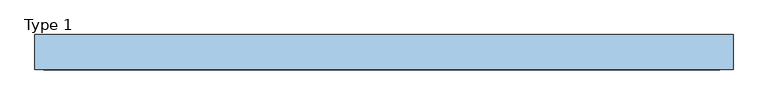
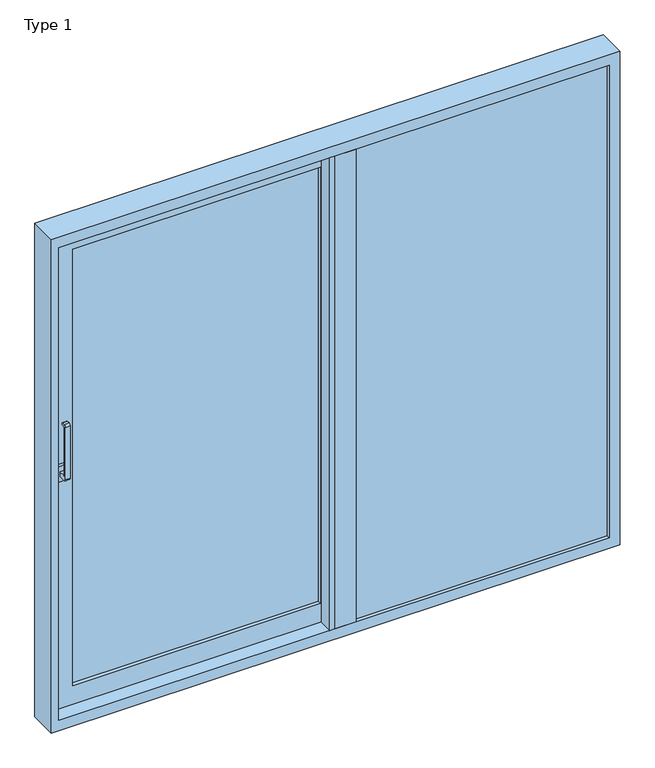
"""IFC4 building model written with IfcOpenShell, lengths in millimetres: window geometry, ETEM_E50_Single_Lift_Sliding_HT : Type 1."""

from ifc_helpers import new_model, si_unit, point, frame, frame_2d, origin, place, context, project, spatial, polyline, circle_curve, trimmed, segment, composite_curve, outline, extrude, faceted_brep, source, transform, mapped, element, save


def type_1_9b372a41(model_context):
    return source(origin(), model_context, "Body", "SolidModel", [
        extrude(outline(composite_curve([segment(polyline([(36.95, 1090.0), (5.3763152, 1090.0)]), True, "CONTINUOUS"), segment(trimmed(circle_curve(frame_2d((5.3763152, 1098.4263152)), 8.4263152), [point((5.3763152, 1090.0))], [point((-3.05, 1098.4263152))], False, "CARTESIAN"), True, "CONTINUOUS"), segment(polyline([(-3.05, 1098.4263152), (-3.05, 1331.5736848)]), True, "CONTINUOUS"), segment(trimmed(circle_curve(frame_2d((5.3763152, 1331.5736848)), 8.4263152), [point((-3.05, 1331.5736848))], [point((5.3763152, 1340.0))], False, "CARTESIAN"), True, "CONTINUOUS"), segment(polyline([(5.3763152, 1340.0), (16.95, 1340.0)]), True, "CONTINUOUS"), segment(trimmed(circle_curve(frame_2d((16.95, 1335.0)), 5.0), [point((16.95, 1340.0))], [point((16.95, 1330.0))], False, "CARTESIAN"), True, "CONTINUOUS"), segment(polyline([(16.95, 1330.0), (10.4855339, 1330.0)]), True, "CONTINUOUS"), segment(trimmed(circle_curve(frame_2d((10.4855339, 1326.4644661)), 3.5355339), [point((10.4855339, 1330.0))], [point((6.95, 1326.4644661))], True, "CARTESIAN"), True, "CONTINUOUS"), segment(polyline([(6.95, 1326.4644661), (6.95, 1113.5355339)]), True, "CONTINUOUS"), segment(trimmed(circle_curve(frame_2d((10.4855339, 1113.5355339)), 3.5355339), [point((6.95, 1113.5355339))], [point((10.4855339, 1110.0))], True, "CARTESIAN"), True, "CONTINUOUS"), segment(polyline([(10.4855339, 1110.0), (36.95, 1110.0), (36.95, 1090.0)]), True, "CONTINUOUS")], self_intersect=False)), frame((-1133.6259607, 0.0, 0.0), z_axis=(1.0, 0.0, 0.0), x_axis=(0.0, 1.0, 0.0)), (0.0, 0.0, 1.0), 20.0),
        extrude(outline(polyline([(-1108.6259607, 36.95), (-1138.6259607, 36.95), (-1138.6259607, 49.95), (-1108.6259607, 49.95), (-1108.6259607, 36.95)])), frame((0.0, 0.0, 1065.0), z_axis=(0.0, 0.0, 1.0), x_axis=(1.0, 0.0, 0.0)), (0.0, 0.0, 1.0), 70.0),
        faceted_brep([(66.0, 54.1, 2164.0), (66.0, 49.4, 2164.0), (66.0, 49.4, 36.0), (66.0, 54.1, 36.0), (-1164.1259607, 49.4, 2164.0), (-1164.1259607, 49.4, 36.0), (-25.5, 49.4, 127.5), (-1072.6259607, 49.4, 127.5), (-1072.6259607, 49.4, 2072.5), (-25.5, 49.4, 2072.5), (-1164.1259607, 54.1, 36.0), (-1164.1259607, 54.1, 2164.0), (34.9, 54.1, 2132.9), (-1133.0259607, 54.1, 2132.9), (-1133.0259607, 54.1, 67.1), (34.9, 54.1, 67.1), (34.9, 94.7, 2132.9), (34.9, 94.7, 67.1), (-1133.0259607, 94.7, 67.1), (66.0, 94.7, 2164.0), (-1164.1259607, 94.7, 2164.0), (-1164.1259607, 94.7, 36.0), (66.0, 94.7, 36.0), (-1133.0259607, 94.7, 2132.9), (66.0, 99.4, 2164.0), (66.0, 99.4, 36.0), (-1164.1259607, 99.4, 36.0), (-1164.1259607, 99.4, 2164.0), (-25.5, 99.4, 2072.5), (-1072.6259607, 99.4, 2072.5), (-1072.6259607, 99.4, 127.5), (-25.5, 99.4, 127.5)], [[[0, 1, 2, 3]], [[1, 4, 5, 2], [6, 7, 8, 9]], [[3, 2, 5, 10]], [[3, 10, 11, 0], [12, 13, 14, 15]], [[16, 12, 15, 17]], [[17, 15, 14, 18]], [[19, 20, 21, 22], [17, 18, 23, 16]], [[24, 19, 22, 25]], [[25, 22, 21, 26]], [[25, 26, 27, 24], [28, 29, 30, 31]], [[9, 28, 31, 6]], [[6, 31, 30, 7]], [[10, 5, 4, 11]], [[18, 14, 13, 23]], [[26, 21, 20, 27]], [[7, 30, 29, 8]], [[11, 4, 1, 0]], [[23, 13, 12, 16]], [[27, 20, 19, 24]], [[8, 29, 28, 9]]]),
        extrude(outline(polyline([(86.5, 38.4), (66.0, 38.4), (66.0, 99.4), (86.5, 99.4), (86.5, 38.4)])), frame((0.0, 0.0, 36.0), z_axis=(0.0, 0.0, 1.0), x_axis=(1.0, 0.0, 0.0)), (0.0, 0.0, 1.0), 2128.0),
        extrude(outline(polyline([(-25.5, 45.4), (-5.0, 45.4), (-5.0, -15.6), (-25.5, -15.6), (-25.5, 45.4)])), frame((0.0, 0.0, 46.0), z_axis=(0.0, 0.0, 1.0), x_axis=(1.0, 0.0, 0.0)), (0.0, 0.0, 1.0), 2108.0),
        extrude(outline(polyline([(-1072.6259607, 91.4), (-25.5, 91.4), (-25.5, 86.3998789), (-1072.6259607, 86.3998789), (-1072.6259607, 91.4)])), frame((0.0, 0.0, 127.5), z_axis=(0.0, 0.0, 1.0), x_axis=(1.0, 0.0, 0.0)), (0.0, 0.0, 1.0), 1945.0),
        extrude(outline(polyline([(-5.0, -15.6), (-5.0, -10.9), (24.2, -10.9), (24.2, 29.7), (-5.0, 29.7), (-5.0, 34.4), (86.5, 34.4), (86.5, -15.6), (-5.0, -15.6)])), frame((0.0, 0.0, 46.0), z_axis=(0.0, 0.0, 1.0), x_axis=(1.0, 0.0, 0.0)), (0.0, 0.0, 1.0), 2108.0),
        extrude(outline(polyline([(-1072.6259607, 70.4001211), (-25.5, 70.4001211), (-25.5, 65.4), (-1072.6259607, 65.4), (-1072.6259607, 70.4001211)])), frame((0.0, 0.0, 127.5), z_axis=(0.0, 0.0, 1.0), x_axis=(1.0, 0.0, 0.0)), (0.0, 0.0, 1.0), 1945.0),
        extrude(outline(polyline([(86.5, 5.4), (1154.0, 5.4), (1154.0, 0.4), (86.5, 0.4), (86.5, 5.4)])), frame((0.0, 0.0, 46.0), z_axis=(0.0, 0.0, 1.0), x_axis=(1.0, 0.0, 0.0)), (0.0, 0.0, 1.0), 2108.0),
        faceted_brep([(-15.6, 45.4, 35.8), (-15.6, 45.4, 46.0), (-15.6, 34.4, 46.0), (-15.6, 34.4, 35.8), (-15.6, 45.4, 2164.2), (-15.6, 34.4, 2164.2), (-15.6, 34.4, 2154.0), (-15.6, 45.4, 2154.0), (1200.0, -15.6, 2200.0), (1200.0, -15.6, 0.0), (1200.0, 105.0, 0.0), (1200.0, 105.0, 2200.0), (-1200.0, -15.6, 2200.0), (-1200.0, -15.6, 0.0), (1154.0, -15.6, 46.0), (-1169.0569844, -15.6, 46.0), (-1169.0569844, -15.6, 2154.0), (1154.0, -15.6, 2154.0), (-1200.0, 105.0, 0.0), (-1155.0, 105.0, 0.0), (-1155.0, 103.6, 0.0), (1155.0, 103.6, 0.0), (1155.0, 105.0, 0.0), (-1155.0, 103.6, 16.3), (1155.0, 103.6, 16.3), (1181.7, 92.1, 18.3), (1181.7, 78.9, 18.3), (1181.7, 78.9, 2181.7), (1181.7, 101.4, 2181.7), (1181.7, 101.4, 16.3), (1181.7, 92.1, 16.3), (-1181.7, 92.1, 18.3), (-1181.7, 78.9, 18.3), (-1181.7, 78.9, 2181.7), (1163.0, 78.9, 37.0), (1163.0, 78.9, 2163.0), (-1163.0, 78.9, 2163.0), (-1163.0, 78.9, 37.0), (1163.0, 90.4, 2163.0), (1163.0, 90.4, 37.0), (-1163.0, 90.4, 37.0), (-1163.0, 90.4, 2163.0), (1155.0, 90.4, 45.0), (1155.0, 90.4, 2155.0), (-1155.0, 90.4, 2155.0), (-1155.0, 90.4, 45.0), (1155.0, 58.4, 2155.0), (1155.0, 58.4, 45.0), (-1155.0, 58.4, 45.0), (1181.7, 69.9, 18.3), (1181.7, 69.9, 2181.7), (-1181.7, 69.9, 2181.7), (-1181.7, 69.9, 18.3), (1163.0, 69.9, 37.0), (-1163.0, 69.9, 37.0), (-1163.0, 69.9, 2163.0), (1163.0, 69.9, 2163.0), (1181.7, 34.4, 2181.7), (1181.7, 34.4, 18.3), (-1181.7, 34.4, 18.3), (-1181.7, 34.4, 2181.7), (1154.0, 34.4, 46.0), (1154.0, 34.4, 2154.0), (-1164.2, 34.4, 2164.2), (-1164.2, 34.4, 35.8), (-1200.0, 105.0, 2200.0), (-1181.7, 92.1, 16.3), (-1181.7, 101.4, 16.3), (-1181.7, 101.4, 2181.7), (-1155.0, 58.4, 2155.0), (-1164.2, 45.4, 2164.2), (-1154.0, 45.4, 46.0), (-1154.0, 45.4, 2154.0), (-1154.0, 28.4667744, 2154.0), (-1154.0, 28.4667744, 46.0), (1155.0, 105.0, 2155.0), (-1155.0, 105.0, 2155.0), (-1155.0, 101.4, 2155.0), (1155.0, 101.4, 2155.0), (1155.0, 101.4, 16.3), (-1155.0, 101.4, 16.3), (1163.0, 58.4, 37.0), (1163.0, 58.4, 2163.0), (-1163.0, 58.4, 2163.0), (-1163.0, 58.4, 37.0), (-1164.2, 45.4, 35.8)], [[[0, 1, 2, 3]], [[4, 5, 6, 7]], [[8, 9, 10, 11]], [[9, 8, 12, 13], [14, 15, 16, 17]], [[9, 13, 18, 19, 20, 21, 22, 10]], [[21, 20, 23, 24]], [[25, 26, 27, 28, 29, 30]], [[26, 25, 31, 32]], [[27, 26, 32, 33], [34, 35, 36, 37]], [[38, 35, 34, 39]], [[39, 34, 37, 40]], [[38, 39, 40, 41], [42, 43, 44, 45]], [[46, 43, 42, 47]], [[47, 42, 45, 48]], [[49, 50, 51, 52], [53, 54, 55, 56]], [[57, 50, 49, 58]], [[58, 49, 52, 59]], [[57, 58, 59, 60], [61, 62, 6, 5, 63, 64, 3, 2]], [[13, 12, 65, 18]], [[32, 31, 66, 67, 68, 33]], [[40, 37, 36, 41]], [[48, 45, 44, 69]], [[59, 52, 51, 60]], [[12, 8, 11, 65]], [[27, 33, 68, 28]], [[35, 38, 41, 36]], [[43, 46, 69, 44]], [[50, 57, 60, 51]], [[5, 4, 70, 63]], [[71, 72, 73, 74]], [[14, 61, 2, 1, 71, 74, 15]], [[62, 61, 14, 17]], [[16, 73, 72, 7, 6, 62, 17]], [[19, 18, 65, 11, 10, 22, 75, 76]], [[77, 78, 79, 29, 28, 68, 67, 80]], [[24, 23, 80, 67, 66, 30, 29, 79]], [[31, 25, 30, 66]], [[81, 82, 83, 84], [46, 47, 48, 69]], [[19, 76, 77, 80, 23, 20]], [[75, 22, 21, 24, 79, 78]], [[54, 53, 81, 84]], [[55, 54, 84, 83]], [[53, 56, 82, 81]], [[1, 0, 85, 70, 4, 7, 72, 71]], [[0, 3, 64, 85]], [[63, 70, 85, 64]], [[56, 55, 83, 82]], [[76, 75, 78, 77]], [[73, 16, 15, 74]]]),
        extrude(outline(polyline([(86.5, 26.4), (1154.0, 26.4), (1154.0, 21.4), (86.5, 21.4), (86.5, 26.4)])), frame((0.0, 0.0, 46.0), z_axis=(0.0, 0.0, 1.0), x_axis=(1.0, 0.0, 0.0)), (0.0, 0.0, 1.0), 2108.0),
    ])


if __name__ == "__main__":
    model = new_model("IFC4")
    model_context = context("Model", 3, world=origin())
    ifc_project = project(units=[si_unit("LENGTHUNIT", "METRE", prefix="MILLI")], contexts=[model_context])
    site = spatial("IfcSite", under=ifc_project)
    building = spatial("IfcBuilding", under=site)
    placement = place(None, origin())
    type_1_shape = type_1_9b372a41(model_context)
    element("IfcWindow", 1, ObjectType="ETEM_E50_Single_Lift_Sliding_HT : Type 1", at=placement, inside=building, context=model_context, shape_type="MappedRepresentation", body=[
        mapped(type_1_shape, transform((0.0, 0.0, 0.0), x_axis=(1.0, 0.0, 0.0), y_axis=(0.0, 1.0, 0.0), z_axis=(0.0, 0.0, 1.0))),
    ])
    save(model, "model.ifc")
